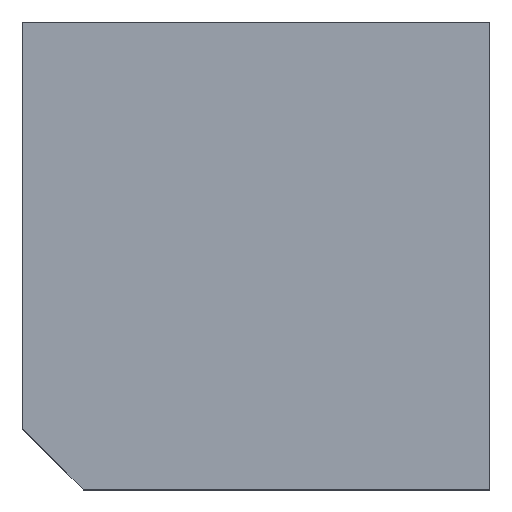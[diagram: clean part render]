
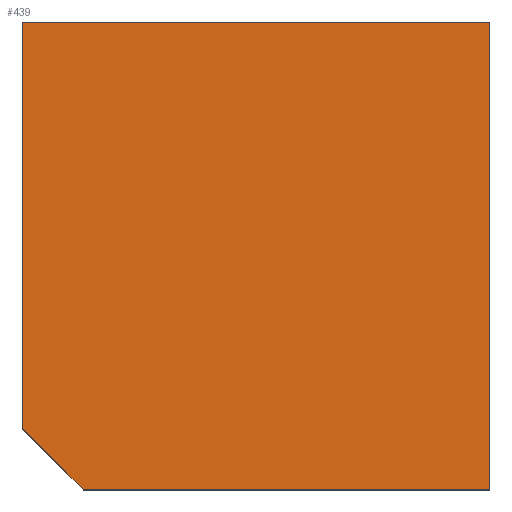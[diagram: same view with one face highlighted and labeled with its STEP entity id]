
A CAD part, top view. The second image highlights one B-rep face of the part: STEP entity #439.
In plain terms, the highlighted planar face has unit normal (0, 0, 1).
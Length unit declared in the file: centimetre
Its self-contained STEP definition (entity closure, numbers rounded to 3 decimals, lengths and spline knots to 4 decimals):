
#13 = ORIENTED_EDGE ( 'NONE', *, *, #643, .T. ) ;
#43 = CARTESIAN_POINT ( 'NONE',  ( 64.9756, 64.9756, 1000. ) ) ;
#77 = DIRECTION ( 'NONE',  ( 0., 1., 0. ) ) ;
#84 = CARTESIAN_POINT ( 'NONE',  ( 0., 0., 1000. ) ) ;
#132 = VERTEX_POINT ( 'NONE', #361 ) ;
#172 = DIRECTION ( 'NONE',  ( 1., 0., 0. ) ) ;
#187 = VECTOR ( 'NONE', #983, 100. ) ;
#206 = ORIENTED_EDGE ( 'NONE', *, *, #334, .T. ) ;
#244 = CARTESIAN_POINT ( 'NONE',  ( 0., 1000., 1000. ) ) ;
#259 = CARTESIAN_POINT ( 'NONE',  ( 129.9511, 0., 1000. ) ) ;
#303 = DIRECTION ( 'NONE',  ( -1., 0., 0. ) ) ;
#314 = EDGE_CURVE ( 'NONE', #617, #511, #761, .T. ) ;
#324 = CARTESIAN_POINT ( 'NONE',  ( 1000., 1000., 1000. ) ) ;
#334 = EDGE_CURVE ( 'NONE', #623, #617, #697, .T. ) ;
#341 = DIRECTION ( 'NONE',  ( 1., 0., 0. ) ) ;
#360 = LINE ( 'NONE', #84, #732 ) ;
#361 = CARTESIAN_POINT ( 'NONE',  ( 1000., 1000., 1000. ) ) ;
#369 = ORIENTED_EDGE ( 'NONE', *, *, #314, .T. ) ;
#379 = AXIS2_PLACEMENT_3D ( 'NONE', #470, #618, #341 ) ;
#439 = ADVANCED_FACE ( 'NONE', ( #722 ), #536, .T. ) ;
#451 = CARTESIAN_POINT ( 'NONE',  ( 0., 129.9511, 1000. ) ) ;
#465 = VERTEX_POINT ( 'NONE', #555 ) ;
#470 = CARTESIAN_POINT ( 'NONE',  ( 0., 0., 1000. ) ) ;
#511 = VERTEX_POINT ( 'NONE', #259 ) ;
#517 = EDGE_CURVE ( 'NONE', #511, #465, #360, .T. ) ;
#536 = PLANE ( 'NONE',  #379 ) ;
#555 = CARTESIAN_POINT ( 'NONE',  ( 1000., 0., 1000. ) ) ;
#608 = VECTOR ( 'NONE', #945, 100. ) ;
#609 = ORIENTED_EDGE ( 'NONE', *, *, #955, .T. ) ;
#617 = VERTEX_POINT ( 'NONE', #451 ) ;
#618 = DIRECTION ( 'NONE',  ( 0., 0., 1. ) ) ;
#623 = VERTEX_POINT ( 'NONE', #663 ) ;
#643 = EDGE_CURVE ( 'NONE', #465, #132, #1016, .T. ) ;
#663 = CARTESIAN_POINT ( 'NONE',  ( 0., 1000., 1000. ) ) ;
#670 = EDGE_LOOP ( 'NONE', ( #206, #369, #724, #13, #609 ) ) ;
#697 = LINE ( 'NONE', #244, #608 ) ;
#722 = FACE_OUTER_BOUND ( 'NONE', #670, .T. ) ;
#724 = ORIENTED_EDGE ( 'NONE', *, *, #517, .T. ) ;
#732 = VECTOR ( 'NONE', #172, 100. ) ;
#749 = LINE ( 'NONE', #984, #917 ) ;
#761 = LINE ( 'NONE', #43, #187 ) ;
#824 = VECTOR ( 'NONE', #77, 100. ) ;
#917 = VECTOR ( 'NONE', #303, 100. ) ;
#945 = DIRECTION ( 'NONE',  ( 0., -1., 0. ) ) ;
#955 = EDGE_CURVE ( 'NONE', #132, #623, #749, .T. ) ;
#983 = DIRECTION ( 'NONE',  ( 0.707, -0.707, 0. ) ) ;
#984 = CARTESIAN_POINT ( 'NONE',  ( 0., 1000., 1000. ) ) ;
#1016 = LINE ( 'NONE', #324, #824 ) ;
